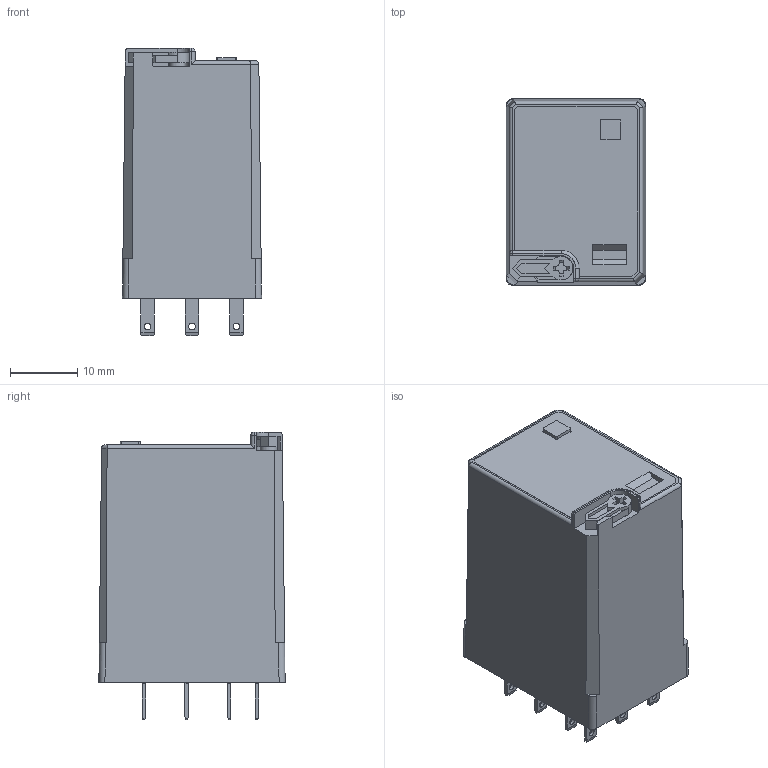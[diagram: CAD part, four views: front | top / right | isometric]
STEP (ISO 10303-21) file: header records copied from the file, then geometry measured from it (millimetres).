
FILE_DESCRIPTION(('STEP AP214'),'2;1');
FILE_NAME('complessivo 55 3 sc con pulsante Innesto AC---catalogo.stp','2010-11-19T14:30:54',(''),(''),'2007.1.106','THINKDESIGN','');
FILE_SCHEMA(('AUTOMOTIVE_DESIGN'));
Length unit declared in the file: millimetre
Products named in the file (1): None
Bounding box: 20.7 x 27.7 x 42.8 mm (x, y, z)
Surface area: 7637.1 mm2 (no closed solid volume)
Topology: 0 solids, 0 shells, 315 faces, 1757 edges, 1727 vertices
Faces by surface type: plane 213, cylinder 72, bspline 30
Full cylindrical faces by diameter (mm): 1 x11, 2.5 x1, 5 x1
Entity records: 18263 total; most frequent: CARTESIAN_POINT 5582, DIRECTION 2181, COMPOSITE_CURVE_SEGMENT 1755, TRIMMED_CURVE 1481, VECTOR 1401, LINE 1401, AXIS2_PLACEMENT_3D 390, OUTER_BOUNDARY_CURVE 315
